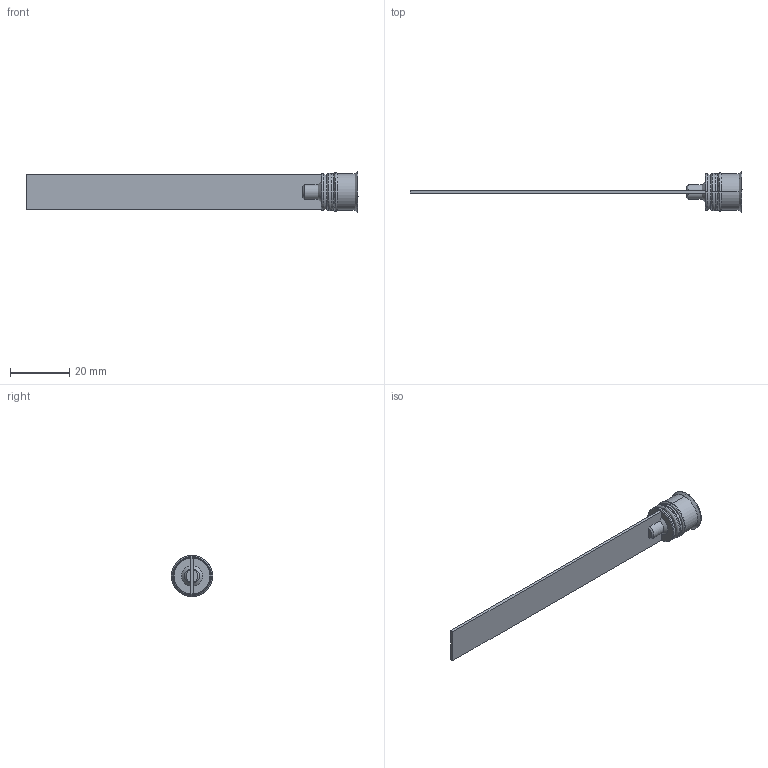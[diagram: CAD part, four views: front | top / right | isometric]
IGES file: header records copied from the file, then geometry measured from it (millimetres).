
Start section: START RECORD GO HERE.
Global section: file name: RL-12x100.igs; native system: DASSAULT SYSTEMES CATIA V5 R20 - www.3ds.com; preprocessor: CATIA Version 5 Release 20 ; author: Utente; organization: NB04-ASUS; date: 20210303.200238; units: millimetre
Bounding box: 112.5 x 14 x 14 mm (x, y, z)
Surface area: 3745.1 mm2 (no closed solid volume)
Topology: 0 solids, 0 shells, 65 faces, 364 edges, 364 vertices
Faces by surface type: revolution 38, plane 27
